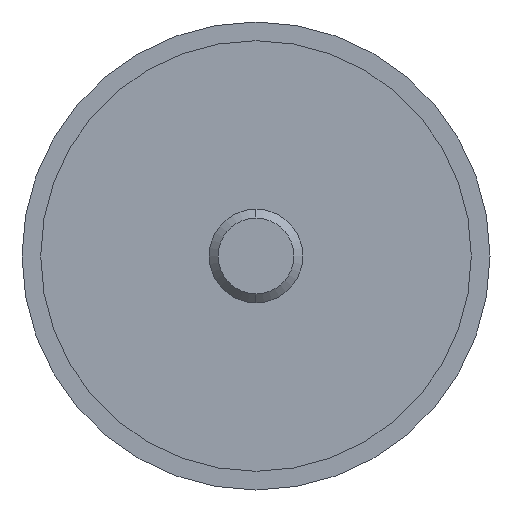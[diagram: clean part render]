
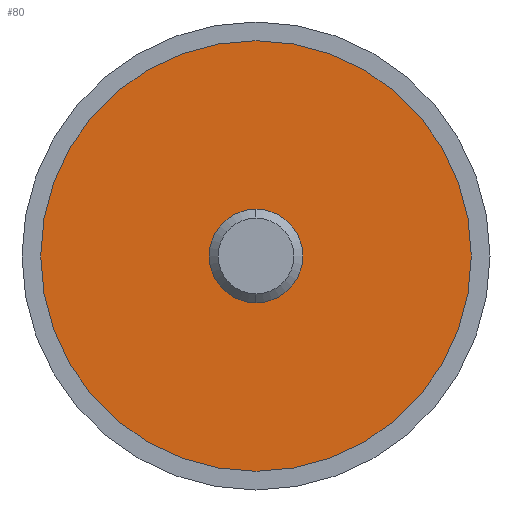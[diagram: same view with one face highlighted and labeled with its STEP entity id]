
A CAD part, left-side view. The second image highlights one B-rep face of the part: STEP entity #80.
In plain terms, the highlighted planar face has unit normal (-1, 0, 0).
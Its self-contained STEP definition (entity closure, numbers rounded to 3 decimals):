
#5 = CIRCLE ( 'NONE', #539, 23. ) ;
#18 = CARTESIAN_POINT ( 'NONE',  ( -14.99, 0., 0. ) ) ;
#29 = AXIS2_PLACEMENT_3D ( 'NONE', #424, #277, #163 ) ;
#31 = VERTEX_POINT ( 'NONE', #625 ) ;
#55 = DIRECTION ( 'NONE',  ( -1., 0., 0. ) ) ;
#62 = DIRECTION ( 'NONE',  ( -1., 0., 0. ) ) ;
#72 = VERTEX_POINT ( 'NONE', #420 ) ;
#73 = CARTESIAN_POINT ( 'NONE',  ( -14.99, 0., -5. ) ) ;
#80 = ADVANCED_FACE ( 'NONE', ( #266, #591 ), #378, .F. ) ;
#91 = AXIS2_PLACEMENT_3D ( 'NONE', #18, #62, #222 ) ;
#111 = EDGE_CURVE ( 'NONE', #600, #656, #490, .T. ) ;
#114 = EDGE_CURVE ( 'NONE', #31, #72, #5, .T. ) ;
#126 = CARTESIAN_POINT ( 'NONE',  ( -14.99, 0., 0. ) ) ;
#135 = EDGE_CURVE ( 'NONE', #656, #600, #243, .T. ) ;
#163 = DIRECTION ( 'NONE',  ( 0., 0., -1. ) ) ;
#167 = AXIS2_PLACEMENT_3D ( 'NONE', #531, #538, #474 ) ;
#222 = DIRECTION ( 'NONE',  ( 0., 0., -1. ) ) ;
#243 = CIRCLE ( 'NONE', #91, 5. ) ;
#244 = CARTESIAN_POINT ( 'NONE',  ( -14.99, 0., 5. ) ) ;
#266 = FACE_OUTER_BOUND ( 'NONE', #370, .T. ) ;
#277 = DIRECTION ( 'NONE',  ( 1., 0., 0. ) ) ;
#278 = ORIENTED_EDGE ( 'NONE', *, *, #111, .F. ) ;
#308 = ORIENTED_EDGE ( 'NONE', *, *, #114, .T. ) ;
#324 = CIRCLE ( 'NONE', #167, 23. ) ;
#325 = DIRECTION ( 'NONE',  ( -1., 0., 0. ) ) ;
#336 = DIRECTION ( 'NONE',  ( 0., 0., 1. ) ) ;
#370 = EDGE_LOOP ( 'NONE', ( #553, #308 ) ) ;
#378 = PLANE ( 'NONE',  #29 ) ;
#393 = EDGE_CURVE ( 'NONE', #72, #31, #324, .T. ) ;
#420 = CARTESIAN_POINT ( 'NONE',  ( -14.99, 0., 23. ) ) ;
#424 = CARTESIAN_POINT ( 'NONE',  ( -14.99, 23., 0. ) ) ;
#474 = DIRECTION ( 'NONE',  ( 0., 0., 1. ) ) ;
#490 = CIRCLE ( 'NONE', #549, 5. ) ;
#529 = CARTESIAN_POINT ( 'NONE',  ( -14.99, 0., 0. ) ) ;
#531 = CARTESIAN_POINT ( 'NONE',  ( -14.99, 0., 0. ) ) ;
#538 = DIRECTION ( 'NONE',  ( -1., 0., 0. ) ) ;
#539 = AXIS2_PLACEMENT_3D ( 'NONE', #126, #55, #336 ) ;
#543 = DIRECTION ( 'NONE',  ( 0., 0., -1. ) ) ;
#547 = ORIENTED_EDGE ( 'NONE', *, *, #135, .F. ) ;
#549 = AXIS2_PLACEMENT_3D ( 'NONE', #529, #325, #543 ) ;
#553 = ORIENTED_EDGE ( 'NONE', *, *, #393, .T. ) ;
#591 = FACE_BOUND ( 'NONE', #613, .T. ) ;
#600 = VERTEX_POINT ( 'NONE', #244 ) ;
#613 = EDGE_LOOP ( 'NONE', ( #278, #547 ) ) ;
#625 = CARTESIAN_POINT ( 'NONE',  ( -14.99, 0., -23. ) ) ;
#656 = VERTEX_POINT ( 'NONE', #73 ) ;
